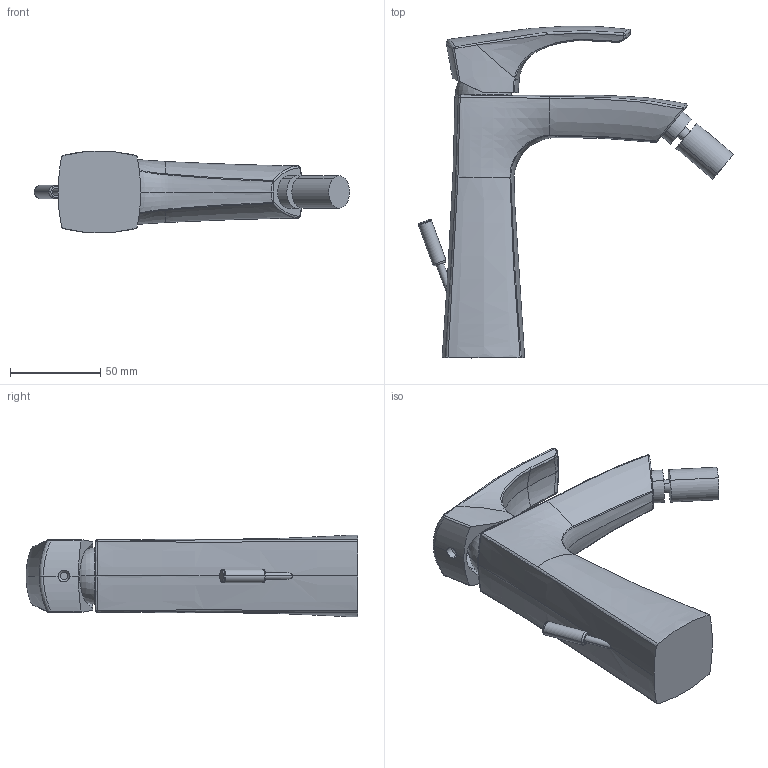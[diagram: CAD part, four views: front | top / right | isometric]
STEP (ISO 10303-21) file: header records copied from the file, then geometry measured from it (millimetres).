
FILE_DESCRIPTION(('CoCreate Modeling STEP Export'),'2;1');
FILE_NAME('LADY.306.stp','2012-06-04T 9:35:50',(''),(''),'CoCreate Modeling STEP processor for AP214 (Solid Model)','CoCreate Modeling 17.0 01-Apr-2010 (C) Parametric Technology GmbH','');
FILE_SCHEMA(('AUTOMOTIVE_DESIGN { 1 0 10303 214 1 1 1 1 }'));
Length unit declared in the file: millimetre
Products named in the file (1): Vol1
Bounding box: 174.18 x 183.46 x 45.31 mm (x, y, z)
Surface area: 49886.9 mm2 (no closed solid volume)
Topology: 0 solids, 2 shells, 182 faces, 447 edges, 261 vertices
Faces by surface type: bspline 109, cylinder 29, plane 23, torus 19, cone 2
Entity records: 18528 total; most frequent: CARTESIAN_POINT 15110, ORIENTED_EDGE 874, EDGE_CURVE 437, DIRECTION 431, VERTEX_POINT 261, B_SPLINE_CURVE_WITH_KNOTS 189, EDGE_LOOP 188, FACE_OUTER_BOUND 182
